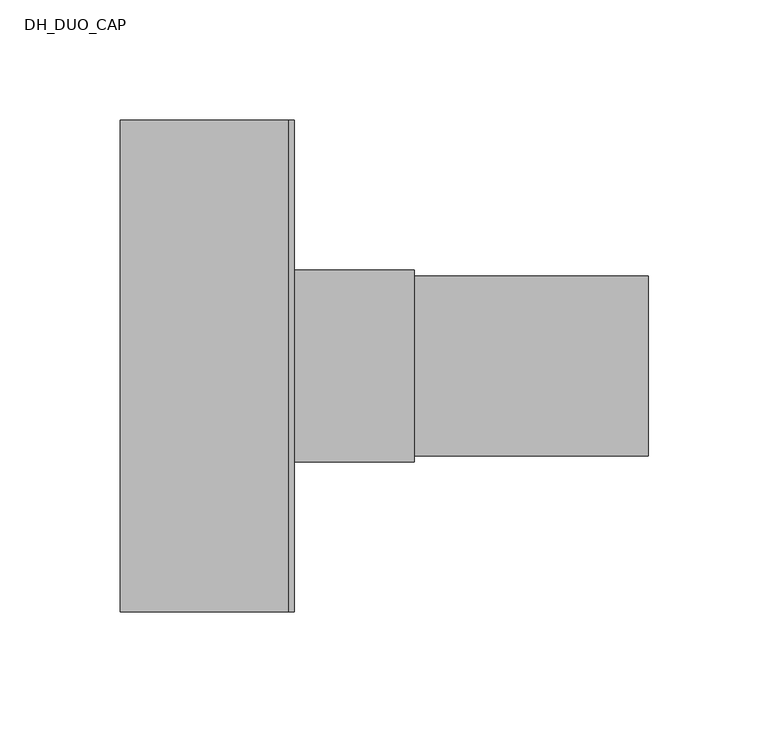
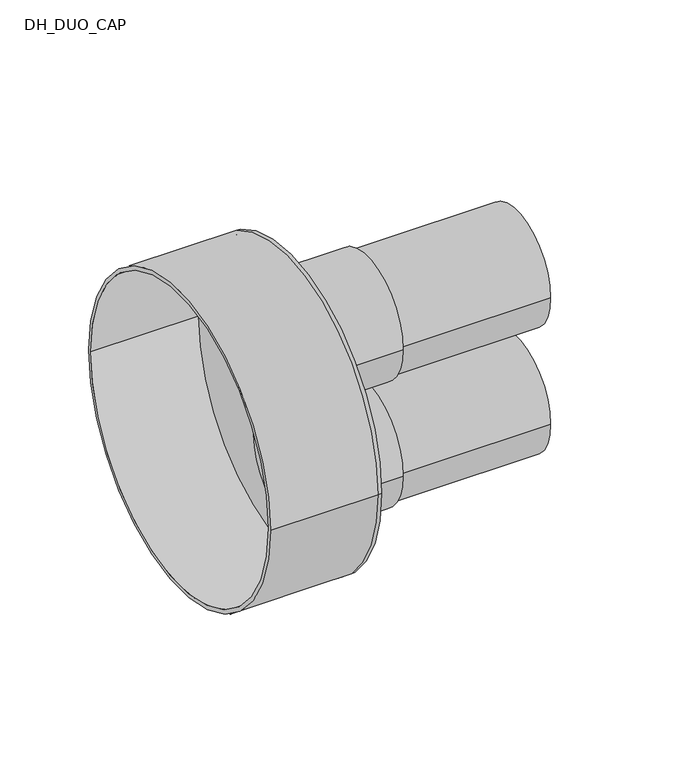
"""IFC4 building model written with IfcOpenShell, lengths in millimetres: pipe fitting geometry, DH_DUO_CAP : INSULPEX DUO 11 Heating - Rubber Cap."""

from ifc_helpers import new_model, si_unit, point, frame, frame_2d, origin, place, context, project, spatial, polyline, circle_curve, trimmed, segment, composite_curve, outline, extrude, source, transform, mapped, element, save
from ifc_brep_helpers import plane_surface, cylinder_surface, revolved_surface, advanced_brep


def dh_duo_cap_8e50b88e(model_context):
    return source(origin(), model_context, "Body", "SolidModel", [
        extrude(outline(composite_curve([segment(trimmed(circle_curve(frame_2d((0.0, -43.5)), 37.5), [point((-37.5, -43.5))], [point((37.5, -43.5))], False, "CARTESIAN"), True, "CONTINUOUS"), segment(trimmed(circle_curve(frame_2d((0.0, -43.5)), 37.5), [point((37.5, -43.5))], [point((-37.5, -43.5))], False, "CARTESIAN"), True, "CONTINUOUS")], self_intersect=False), holes=[composite_curve([segment(trimmed(circle_curve(frame_2d((0.0, -43.5)), 30.7), [point((-30.7, -43.5))], [point((30.7, -43.5))], True, "CARTESIAN"), True, "CONTINUOUS"), segment(trimmed(circle_curve(frame_2d((0.0, -43.5)), 30.7), [point((30.7, -43.5))], [point((-30.7, -43.5))], True, "CARTESIAN"), True, "CONTINUOUS")], self_intersect=False)]), frame((0.0, 0.0, 0.0), z_axis=(1.0, 0.0, 0.0), x_axis=(0.0, 1.0, 0.0)), (0.0, 0.0, 1.0), 150.0),
        extrude(outline(composite_curve([segment(trimmed(circle_curve(frame_2d((0.0, 43.5)), 37.5), [point((-37.5, 43.5))], [point((37.5, 43.5))], False, "CARTESIAN"), True, "CONTINUOUS"), segment(trimmed(circle_curve(frame_2d((0.0, 43.5)), 37.5), [point((37.5, 43.5))], [point((-37.5, 43.5))], False, "CARTESIAN"), True, "CONTINUOUS")], self_intersect=False), holes=[composite_curve([segment(trimmed(circle_curve(frame_2d((0.0, 43.5)), 30.7), [point((-30.7, 43.5))], [point((30.7, 43.5))], True, "CARTESIAN"), True, "CONTINUOUS"), segment(trimmed(circle_curve(frame_2d((0.0, 43.5)), 30.7), [point((30.7, 43.5))], [point((-30.7, 43.5))], True, "CARTESIAN"), True, "CONTINUOUS")], self_intersect=False)]), frame((0.0, 0.0, 0.0), z_axis=(1.0, 0.0, 0.0), x_axis=(0.0, 1.0, 0.0)), (0.0, 0.0, 1.0), 150.0),
        advanced_brep(
        [(-70.0, -102.5, 0.0), (-70.0, 102.5, 0.0), (-70.0, -100.0, 0.0), (-70.0, 100.0, 0.0), (0.0, -100.0, 0.0), (0.0, 100.0, 0.0), (0.0, -102.5, 0.0), (0.0, 102.5, 0.0), (0.0, 37.5, 43.5), (0.0, -37.5, 43.5), (0.0, 37.5, -43.5), (0.0, -37.5, -43.5), (2.5, -102.5, 0.0), (2.5, 102.5, 0.0), (2.5, -37.5, 43.5), (2.5, 37.5, 43.5), (2.5, -37.5, -43.5), (2.5, 37.5, -43.5)],
        [
            (0, 1, circle_curve(frame((-70.0, 0.0, 0.0), z_axis=(-1.0, 0.0, 0.0), x_axis=(0.0, 1.0, 0.0)), 102.5)),
            (1, 0, circle_curve(frame((-70.0, 0.0, 0.0), z_axis=(-1.0, 0.0, 0.0), x_axis=(0.0, 1.0, 0.0)), 102.5)),
            (2, 3, circle_curve(frame((-70.0, 0.0, 0.0), z_axis=(1.0, 0.0, 0.0), x_axis=(0.0, 1.0, 0.0)), 100.0)),
            (3, 2, circle_curve(frame((-70.0, 0.0, 0.0), z_axis=(1.0, 0.0, 0.0), x_axis=(0.0, 1.0, 0.0)), 100.0)),
            (2, 4),
            (4, 5, circle_curve(frame((0.0, 0.0, 0.0), z_axis=(1.0, 0.0, 0.0), x_axis=(0.0, 1.0, 0.0)), 100.0)),
            (5, 3),
            (5, 4, circle_curve(frame((0.0, 0.0, 0.0), z_axis=(1.0, 0.0, 0.0), x_axis=(0.0, 1.0, 0.0)), 100.0)),
            (0, 6),
            (6, 7, circle_curve(frame((0.0, 0.0, 0.0), z_axis=(-1.0, 0.0, 0.0), x_axis=(0.0, 1.0, 0.0)), 102.5)),
            (7, 1),
            (7, 6, circle_curve(frame((0.0, 0.0, 0.0), z_axis=(-1.0, 0.0, 0.0), x_axis=(0.0, 1.0, 0.0)), 102.5)),
            (8, 9, circle_curve(frame((0.0, 0.0, 43.5), z_axis=(1.0, 0.0, 0.0), x_axis=(0.0, 1.0, 0.0)), 37.5)),
            (9, 8, circle_curve(frame((0.0, 0.0, 43.5), z_axis=(1.0, 0.0, 0.0), x_axis=(0.0, 1.0, 0.0)), 37.5)),
            (10, 11, circle_curve(frame((0.0, 0.0, -43.5), z_axis=(1.0, 0.0, 0.0), x_axis=(0.0, 1.0, 0.0)), 37.5)),
            (11, 10, circle_curve(frame((0.0, 0.0, -43.5), z_axis=(1.0, 0.0, 0.0), x_axis=(0.0, 1.0, 0.0)), 37.5)),
            (12, 13, circle_curve(frame((2.5, 0.0, 0.0), z_axis=(1.0, 0.0, 0.0), x_axis=(0.0, 1.0, 0.0)), 102.5)),
            (13, 12, circle_curve(frame((2.5, 0.0, 0.0), z_axis=(1.0, 0.0, 0.0), x_axis=(0.0, 1.0, 0.0)), 102.5)),
            (14, 15, circle_curve(frame((2.5, 0.0, 43.5), z_axis=(-1.0, 0.0, 0.0), x_axis=(0.0, 1.0, 0.0)), 37.5)),
            (15, 14, circle_curve(frame((2.5, 0.0, 43.5), z_axis=(-1.0, 0.0, 0.0), x_axis=(0.0, 1.0, 0.0)), 37.5)),
            (16, 17, circle_curve(frame((2.5, 0.0, -43.5), z_axis=(-1.0, 0.0, 0.0), x_axis=(0.0, 1.0, 0.0)), 37.5)),
            (17, 16, circle_curve(frame((2.5, 0.0, -43.5), z_axis=(-1.0, 0.0, 0.0), x_axis=(0.0, 1.0, 0.0)), 37.5)),
            (13, 7),
            (6, 12),
            (8, 15),
            (14, 9),
            (10, 17),
            (16, 11),
        ],
        [
            plane_surface(frame((-70.0, 0.0, 0.0), z_axis=(-1.0, 0.0, 0.0), x_axis=(0.0, 0.0, 1.0))),
            revolved_surface(polyline([(0.0, 100.0, 0.0), (-70.0, 100.0, 0.0)]), (-70.0, 0.0, 0.0), (1.0, 0.0, 0.0)),
            cylinder_surface(frame((-70.0, 0.0, 0.0), z_axis=(-1.0, 0.0, 0.0), x_axis=(0.0, 1.0, 0.0)), 102.5),
            plane_surface(frame((0.0, 0.0, 0.0), z_axis=(-1.0, 0.0, 0.0), x_axis=(0.0, 0.0, 1.0))),
            plane_surface(frame((2.5, 0.0, 0.0), z_axis=(1.0, 0.0, 0.0), x_axis=(0.0, 0.0, 1.0))),
            cylinder_surface(frame((0.0, 0.0, 0.0), z_axis=(-1.0, 0.0, 0.0), x_axis=(0.0, 1.0, 0.0)), 102.5),
            revolved_surface(polyline([(0.0, 37.5, 43.5), (2.5, 37.5, 43.5)]), (0.0, 0.0, 43.5), (-1.0, 0.0, 0.0)),
            revolved_surface(polyline([(0.0, 37.5, -43.5), (2.5, 37.5, -43.5)]), (0.0, 0.0, -43.5), (-1.0, 0.0, 0.0)),
        ],
        [
            (0, [[1, 2], [3, 4]]),
            (1, [[-3, 5, 6, 7]]),
            (1, [[-4, -7, 8, -5]]),
            (2, [[-1, 9, 10, 11]]),
            (2, [[-2, -11, 12, -9]]),
            (3, [[-6, -8], [13, 14], [15, 16]]),
            (4, [[17, 18], [19, 20], [21, 22]]),
            (5, [[-18, 23, -10, 24]]),
            (5, [[-17, -24, -12, -23]]),
            (6, [[25, -19, 26, -13]]),
            (6, [[-25, -14, -26, -20]]),
            (7, [[27, -21, 28, -15]]),
            (7, [[-27, -16, -28, -22]]),
        ],
    ),
        extrude(outline(composite_curve([segment(trimmed(circle_curve(frame_2d((0.0, -43.5)), 40.0), [point((-40.0, -43.5))], [point((40.0, -43.5))], False, "CARTESIAN"), True, "CONTINUOUS"), segment(trimmed(circle_curve(frame_2d((0.0, -43.5)), 40.0), [point((40.0, -43.5))], [point((-40.0, -43.5))], False, "CARTESIAN"), True, "CONTINUOUS")], self_intersect=False), holes=[composite_curve([segment(trimmed(circle_curve(frame_2d((0.0, -43.5)), 37.5), [point((-37.5, -43.5))], [point((37.5, -43.5))], True, "CARTESIAN"), True, "CONTINUOUS"), segment(trimmed(circle_curve(frame_2d((0.0, -43.5)), 37.5), [point((37.5, -43.5))], [point((-37.5, -43.5))], True, "CARTESIAN"), True, "CONTINUOUS")], self_intersect=False)]), frame((2.5, 0.0, 0.0), z_axis=(1.0, 0.0, 0.0), x_axis=(0.0, 1.0, 0.0)), (0.0, 0.0, 1.0), 50.0),
        extrude(outline(composite_curve([segment(trimmed(circle_curve(frame_2d((0.0, 43.5)), 40.0), [point((-40.0, 43.5))], [point((40.0, 43.5))], False, "CARTESIAN"), True, "CONTINUOUS"), segment(trimmed(circle_curve(frame_2d((0.0, 43.5)), 40.0), [point((40.0, 43.5))], [point((-40.0, 43.5))], False, "CARTESIAN"), True, "CONTINUOUS")], self_intersect=False), holes=[composite_curve([segment(trimmed(circle_curve(frame_2d((0.0, 43.5)), 37.5), [point((-37.5, 43.5))], [point((37.5, 43.5))], True, "CARTESIAN"), True, "CONTINUOUS"), segment(trimmed(circle_curve(frame_2d((0.0, 43.5)), 37.5), [point((37.5, 43.5))], [point((-37.5, 43.5))], True, "CARTESIAN"), True, "CONTINUOUS")], self_intersect=False)]), frame((2.5, 0.0, 0.0), z_axis=(1.0, 0.0, 0.0), x_axis=(0.0, 1.0, 0.0)), (0.0, 0.0, 1.0), 50.0),
    ])


if __name__ == "__main__":
    model = new_model("IFC4")
    model_context = context("Model", 3, world=origin())
    ifc_project = project(units=[si_unit("LENGTHUNIT", "METRE", prefix="MILLI")], contexts=[model_context])
    site = spatial("IfcSite", under=ifc_project)
    building = spatial("IfcBuilding", under=site)
    placement = place(None, origin())
    dh_duo_cap_shape = dh_duo_cap_8e50b88e(model_context)
    element("IfcPipeFitting", 1, ObjectType="DH_DUO_CAP : INSULPEX DUO 11 Heating - Rubber Cap", at=placement, inside=building, context=model_context, shape_type="MappedRepresentation", body=[
        mapped(dh_duo_cap_shape, transform((0.0, 0.0, 0.0), x_axis=(1.0, 0.0, 0.0), y_axis=(0.0, 1.0, 0.0), z_axis=(0.0, 0.0, 1.0))),
    ])
    save(model, "model.ifc")
